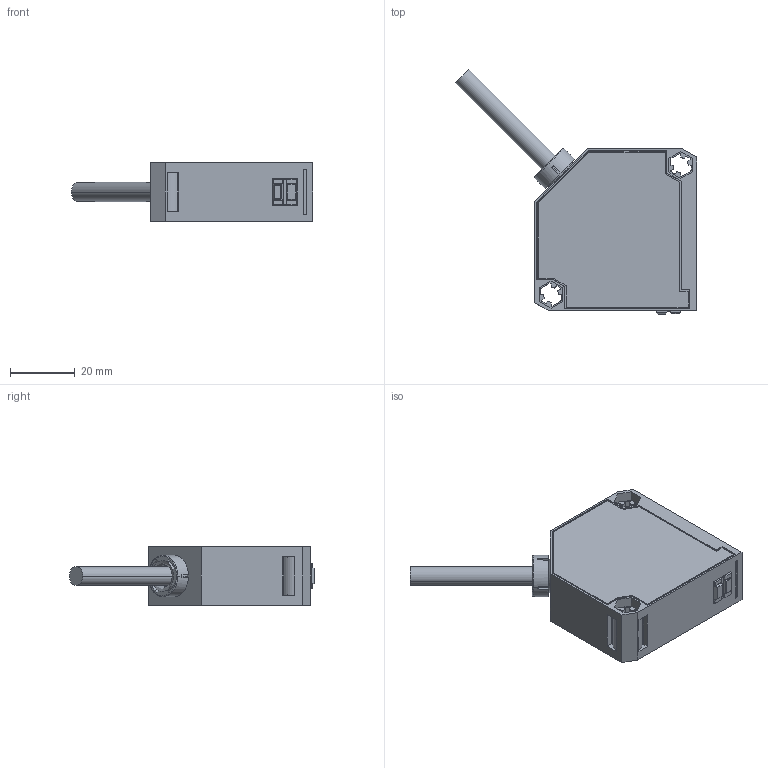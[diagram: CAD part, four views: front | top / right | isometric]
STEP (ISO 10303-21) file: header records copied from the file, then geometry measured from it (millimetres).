
FILE_DESCRIPTION (( 'STEP AP203' ), '1' );
FILE_NAME ('PF50·¢Éä.STEP', '2025-09-29T01:23:03', ( 'Windows User' ), ( 'P R C' ), 'SwSTEP 2.0', 'SolidWorks 2023', '' );
FILE_SCHEMA (( 'CONFIG_CONTROL_DESIGN' ));
Length unit declared in the file: millimetre
Products named in the file (1): PF50发射
Bounding box: 74.74 x 75.94 x 18 mm (x, y, z)
Surface area: 10928.1 mm2 (no closed solid volume)
Topology: 0 solids, 8 shells, 277 faces, 904 edges, 607 vertices
Faces by surface type: plane 161, cylinder 100, bspline 10, cone 6
Entity records: 10182 total; most frequent: CARTESIAN_POINT 2298, DIRECTION 1583, ORIENTED_EDGE 1580, EDGE_CURVE 904, VECTOR 615, LINE 615, VERTEX_POINT 607, AXIS2_PLACEMENT_3D 484
